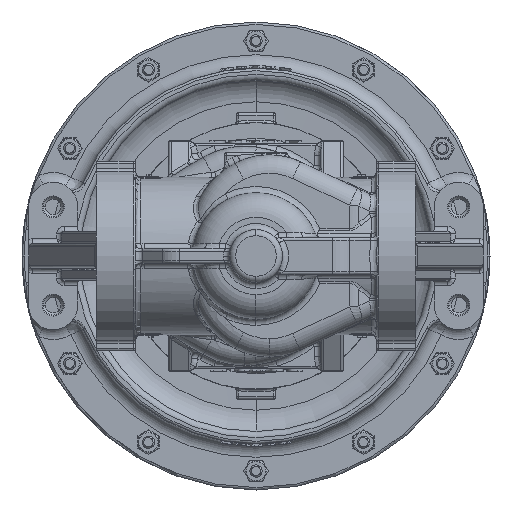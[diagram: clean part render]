
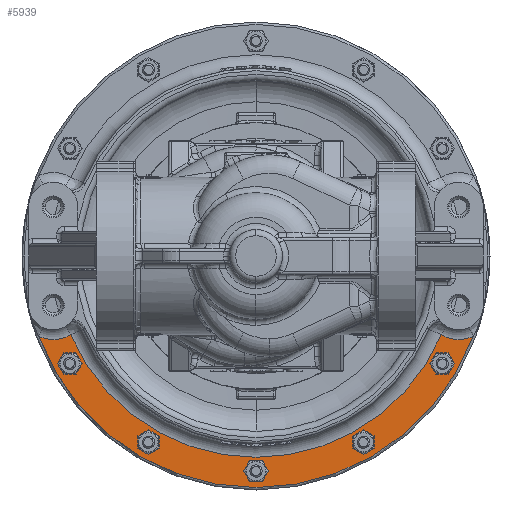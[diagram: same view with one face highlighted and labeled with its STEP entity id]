
A CAD part, front view. The second image highlights one B-rep face of the part: STEP entity #5939.
In plain terms, the highlighted planar face has unit normal (0, -1, 0) as drawn and (0, 0, -1) by its records, which use the part's own axes.
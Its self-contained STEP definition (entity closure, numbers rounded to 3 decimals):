
#1455 = EDGE_LOOP ( 'NONE', ( #15175, #15177, #15181, #15183 ) ) ;
#1674 = EDGE_LOOP ( 'NONE', ( #15171, #15174 ) ) ;
#1720 = EDGE_LOOP ( 'NONE', ( #15164, #15167 ) ) ;
#1802 = EDGE_LOOP ( 'NONE', ( #15161, #15163 ) ) ;
#1946 = EDGE_LOOP ( 'NONE', ( #15153, #15155 ) ) ;
#1974 = EDGE_LOOP ( 'NONE', ( #15157, #15159 ) ) ;
#2991 = CARTESIAN_POINT ( 'NONE',  ( -3.789, 2.188, 0. ) ) ;
#2993 = DIRECTION ( 'NONE',  ( 0., 0., 1. ) ) ;
#2995 = DIRECTION ( 'NONE',  ( 1., 0., 0. ) ) ;
#3140 = CARTESIAN_POINT ( 'NONE',  ( -2.187, 3.789, 0. ) ) ;
#3142 = DIRECTION ( 'NONE',  ( 0., 0., 1. ) ) ;
#3144 = DIRECTION ( 'NONE',  ( 1., 0., 0. ) ) ;
#3275 = CARTESIAN_POINT ( 'NONE',  ( 0., 4.375, 0. ) ) ;
#3277 = DIRECTION ( 'NONE',  ( 0., 0., 1. ) ) ;
#3278 = DIRECTION ( 'NONE',  ( 1., 0., 0. ) ) ;
#3411 = CARTESIAN_POINT ( 'NONE',  ( 2.188, 3.789, 0. ) ) ;
#3413 = DIRECTION ( 'NONE',  ( 0., 0., 1. ) ) ;
#3415 = DIRECTION ( 'NONE',  ( 1., 0., 0. ) ) ;
#3553 = CARTESIAN_POINT ( 'NONE',  ( 3.789, 2.187, 0. ) ) ;
#3555 = DIRECTION ( 'NONE',  ( 0., 0., 1. ) ) ;
#3557 = DIRECTION ( 'NONE',  ( 1., 0., 0. ) ) ;
#5939 = ADVANCED_FACE ( 'NONE', ( #43766, #43774, #43770, #43768, #43772, #43775 ), #46435, .F. ) ;
#6097 = CIRCLE ( 'NONE', #40377, 0.153 ) ;
#6125 = CIRCLE ( 'NONE', #40408, 0.153 ) ;
#6156 = CIRCLE ( 'NONE', #40442, 0.153 ) ;
#6451 = CIRCLE ( 'NONE', #19466, 4.71 ) ;
#7246 = CIRCLE ( 'NONE', #20024, 0.153 ) ;
#7248 = CIRCLE ( 'NONE', #20026, 0.153 ) ;
#7251 = CIRCLE ( 'NONE', #20027, 0.153 ) ;
#7254 = CIRCLE ( 'NONE', #20029, 0.153 ) ;
#7258 = CIRCLE ( 'NONE', #20030, 0.153 ) ;
#7260 = CIRCLE ( 'NONE', #20032, 4.095 ) ;
#7263 = CIRCLE ( 'NONE', #20033, 0.7 ) ;
#7266 = CIRCLE ( 'NONE', #20035, 0.7 ) ;
#9825 = VERTEX_POINT ( 'NONE', #50503 ) ;
#12207 = CARTESIAN_POINT ( 'NONE',  ( 0., 0., 0. ) ) ;
#12208 = DIRECTION ( 'NONE',  ( 0., 0., -1. ) ) ;
#12210 = DIRECTION ( 'NONE',  ( 1., 0., 0. ) ) ;
#15153 = ORIENTED_EDGE ( 'NONE', *, *, #120778, .T. ) ;
#15155 = ORIENTED_EDGE ( 'NONE', *, *, #122018, .T. ) ;
#15157 = ORIENTED_EDGE ( 'NONE', *, *, #120733, .T. ) ;
#15159 = ORIENTED_EDGE ( 'NONE', *, *, #122021, .T. ) ;
#15161 = ORIENTED_EDGE ( 'NONE', *, *, #120689, .T. ) ;
#15163 = ORIENTED_EDGE ( 'NONE', *, *, #122023, .T. ) ;
#15164 = ORIENTED_EDGE ( 'NONE', *, *, #120636, .T. ) ;
#15167 = ORIENTED_EDGE ( 'NONE', *, *, #122025, .T. ) ;
#15171 = ORIENTED_EDGE ( 'NONE', *, *, #120563, .T. ) ;
#15174 = ORIENTED_EDGE ( 'NONE', *, *, #122028, .T. ) ;
#15175 = ORIENTED_EDGE ( 'NONE', *, *, #122030, .T. ) ;
#15177 = ORIENTED_EDGE ( 'NONE', *, *, #122032, .T. ) ;
#15181 = ORIENTED_EDGE ( 'NONE', *, *, #121195, .T. ) ;
#15183 = ORIENTED_EDGE ( 'NONE', *, *, #122035, .T. ) ;
#19466 = AXIS2_PLACEMENT_3D ( 'NONE', #12207, #12208, #12210 ) ;
#20024 = AXIS2_PLACEMENT_3D ( 'NONE', #25981, #25982, #25984 ) ;
#20026 = AXIS2_PLACEMENT_3D ( 'NONE', #25987, #25989, #25991 ) ;
#20027 = AXIS2_PLACEMENT_3D ( 'NONE', #25994, #25996, #25998 ) ;
#20029 = AXIS2_PLACEMENT_3D ( 'NONE', #26001, #26003, #26004 ) ;
#20030 = AXIS2_PLACEMENT_3D ( 'NONE', #26008, #26009, #26011 ) ;
#20032 = AXIS2_PLACEMENT_3D ( 'NONE', #26013, #26015, #26016 ) ;
#20033 = AXIS2_PLACEMENT_3D ( 'NONE', #26019, #26020, #26022 ) ;
#20035 = AXIS2_PLACEMENT_3D ( 'NONE', #26025, #26027, #26028 ) ;
#20644 = AXIS2_PLACEMENT_3D ( 'NONE', #46437, #46433, #46439 ) ;
#25981 = CARTESIAN_POINT ( 'NONE',  ( 3.789, 2.187, 0. ) ) ;
#25982 = DIRECTION ( 'NONE',  ( 0., 0., 1. ) ) ;
#25984 = DIRECTION ( 'NONE',  ( 1., 0., 0. ) ) ;
#25987 = CARTESIAN_POINT ( 'NONE',  ( 2.188, 3.789, 0. ) ) ;
#25989 = DIRECTION ( 'NONE',  ( 0., 0., 1. ) ) ;
#25991 = DIRECTION ( 'NONE',  ( 1., 0., 0. ) ) ;
#25994 = CARTESIAN_POINT ( 'NONE',  ( 0., 4.375, 0. ) ) ;
#25996 = DIRECTION ( 'NONE',  ( 0., 0., 1. ) ) ;
#25998 = DIRECTION ( 'NONE',  ( 1., 0., 0. ) ) ;
#26001 = CARTESIAN_POINT ( 'NONE',  ( -2.187, 3.789, 0. ) ) ;
#26003 = DIRECTION ( 'NONE',  ( 0., 0., 1. ) ) ;
#26004 = DIRECTION ( 'NONE',  ( 1., 0., 0. ) ) ;
#26008 = CARTESIAN_POINT ( 'NONE',  ( -3.789, 2.188, 0. ) ) ;
#26009 = DIRECTION ( 'NONE',  ( 0., 0., 1. ) ) ;
#26011 = DIRECTION ( 'NONE',  ( 1., 0., 0. ) ) ;
#26013 = CARTESIAN_POINT ( 'NONE',  ( 0., 0., 0. ) ) ;
#26015 = DIRECTION ( 'NONE',  ( 0., 0., 1. ) ) ;
#26016 = DIRECTION ( 'NONE',  ( 1., 0., 0. ) ) ;
#26019 = CARTESIAN_POINT ( 'NONE',  ( -4.125, 1., 0. ) ) ;
#26020 = DIRECTION ( 'NONE',  ( 0., 0., 1. ) ) ;
#26022 = DIRECTION ( 'NONE',  ( 1., 0., 0. ) ) ;
#26025 = CARTESIAN_POINT ( 'NONE',  ( 4.125, 1., 0. ) ) ;
#26027 = DIRECTION ( 'NONE',  ( 0., 0., 1. ) ) ;
#26028 = DIRECTION ( 'NONE',  ( 1., 0., 0. ) ) ;
#29571 = CARTESIAN_POINT ( 'NONE',  ( 2.035, 3.789, 0. ) ) ;
#29674 = CARTESIAN_POINT ( 'NONE',  ( -2.035, 3.789, 0. ) ) ;
#29678 = CARTESIAN_POINT ( 'NONE',  ( -2.34, 3.789, 0. ) ) ;
#29725 = CARTESIAN_POINT ( 'NONE',  ( -0.153, 4.375, 0. ) ) ;
#29945 = CARTESIAN_POINT ( 'NONE',  ( -4.417, 1.636, 0. ) ) ;
#29971 = CARTESIAN_POINT ( 'NONE',  ( 3.942, 2.187, 0. ) ) ;
#30207 = CARTESIAN_POINT ( 'NONE',  ( 0.153, 4.375, 0. ) ) ;
#30264 = CARTESIAN_POINT ( 'NONE',  ( 2.34, 3.789, 0. ) ) ;
#30268 = CARTESIAN_POINT ( 'NONE',  ( 3.636, 2.187, 0. ) ) ;
#30278 = CARTESIAN_POINT ( 'NONE',  ( 4.417, 1.636, 0. ) ) ;
#32836 = CARTESIAN_POINT ( 'NONE',  ( -3.636, 2.188, 0. ) ) ;
#40300 = AXIS2_PLACEMENT_3D ( 'NONE', #2991, #2993, #2995 ) ;
#40340 = AXIS2_PLACEMENT_3D ( 'NONE', #3140, #3142, #3144 ) ;
#40377 = AXIS2_PLACEMENT_3D ( 'NONE', #3275, #3277, #3278 ) ;
#40408 = AXIS2_PLACEMENT_3D ( 'NONE', #3411, #3413, #3415 ) ;
#40442 = AXIS2_PLACEMENT_3D ( 'NONE', #3553, #3555, #3557 ) ;
#42719 = VERTEX_POINT ( 'NONE', #29571 ) ;
#42817 = VERTEX_POINT ( 'NONE', #29674 ) ;
#42822 = VERTEX_POINT ( 'NONE', #29678 ) ;
#42870 = VERTEX_POINT ( 'NONE', #29725 ) ;
#43114 = VERTEX_POINT ( 'NONE', #29945 ) ;
#43142 = VERTEX_POINT ( 'NONE', #29971 ) ;
#43336 = VERTEX_POINT ( 'NONE', #30207 ) ;
#43366 = VERTEX_POINT ( 'NONE', #30264 ) ;
#43368 = VERTEX_POINT ( 'NONE', #30268 ) ;
#43373 = VERTEX_POINT ( 'NONE', #30278 ) ;
#43766 = FACE_BOUND ( 'NONE', #1946, .T. ) ;
#43768 = FACE_BOUND ( 'NONE', #1720, .T. ) ;
#43770 = FACE_BOUND ( 'NONE', #1802, .T. ) ;
#43772 = FACE_BOUND ( 'NONE', #1674, .T. ) ;
#43774 = FACE_BOUND ( 'NONE', #1974, .T. ) ;
#43775 = FACE_OUTER_BOUND ( 'NONE', #1455, .T. ) ;
#46433 = DIRECTION ( 'NONE',  ( 0., 0., 1. ) ) ;
#46435 = PLANE ( 'NONE',  #20644 ) ;
#46437 = CARTESIAN_POINT ( 'NONE',  ( 0., 4.76, 0. ) ) ;
#46439 = DIRECTION ( 'NONE',  ( 1., 0., 0. ) ) ;
#50503 = CARTESIAN_POINT ( 'NONE',  ( -3.942, 2.188, 0. ) ) ;
#52040 = CARTESIAN_POINT ( 'NONE',  ( 3.768, 1.602, 0. ) ) ;
#52057 = CARTESIAN_POINT ( 'NONE',  ( -3.768, 1.602, 0. ) ) ;
#72275 = VERTEX_POINT ( 'NONE', #32836 ) ;
#97322 = VERTEX_POINT ( 'NONE', #52040 ) ;
#97373 = VERTEX_POINT ( 'NONE', #52057 ) ;
#118472 = CIRCLE ( 'NONE', #40300, 0.153 ) ;
#118488 = CIRCLE ( 'NONE', #40340, 0.153 ) ;
#120563 = EDGE_CURVE ( 'NONE', #9825, #72275, #118472, .T. ) ;
#120636 = EDGE_CURVE ( 'NONE', #42822, #42817, #118488, .T. ) ;
#120689 = EDGE_CURVE ( 'NONE', #42870, #43336, #6097, .T. ) ;
#120733 = EDGE_CURVE ( 'NONE', #42719, #43366, #6125, .T. ) ;
#120778 = EDGE_CURVE ( 'NONE', #43368, #43142, #6156, .T. ) ;
#121195 = EDGE_CURVE ( 'NONE', #43114, #43373, #6451, .T. ) ;
#122018 = EDGE_CURVE ( 'NONE', #43142, #43368, #7246, .T. ) ;
#122021 = EDGE_CURVE ( 'NONE', #43366, #42719, #7248, .T. ) ;
#122023 = EDGE_CURVE ( 'NONE', #43336, #42870, #7251, .T. ) ;
#122025 = EDGE_CURVE ( 'NONE', #42817, #42822, #7254, .T. ) ;
#122028 = EDGE_CURVE ( 'NONE', #72275, #9825, #7258, .T. ) ;
#122030 = EDGE_CURVE ( 'NONE', #97322, #97373, #7260, .T. ) ;
#122032 = EDGE_CURVE ( 'NONE', #97373, #43114, #7263, .T. ) ;
#122035 = EDGE_CURVE ( 'NONE', #43373, #97322, #7266, .T. ) ;
